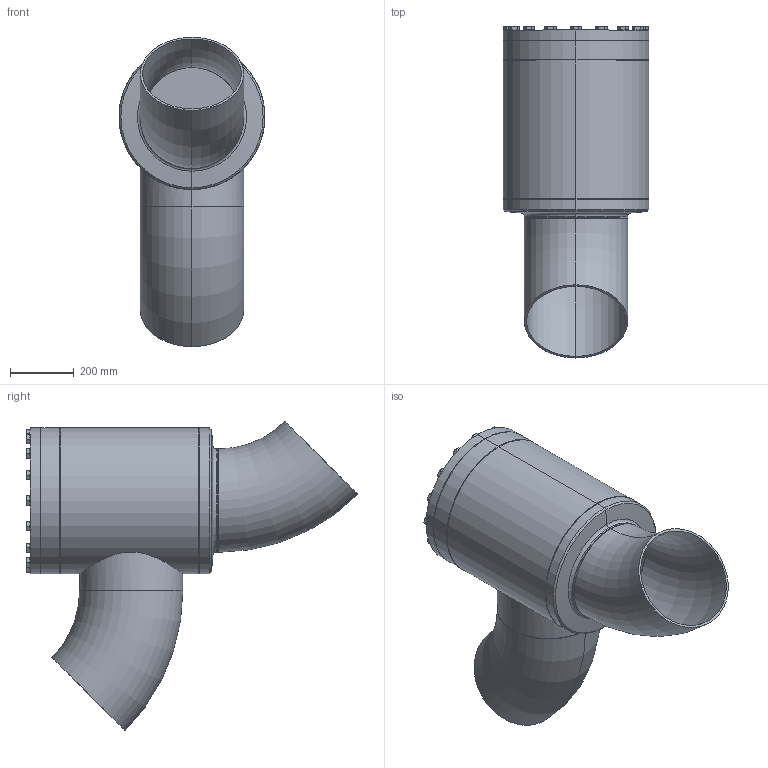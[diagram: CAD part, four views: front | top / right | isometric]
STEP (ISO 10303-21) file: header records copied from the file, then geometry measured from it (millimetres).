
FILE_DESCRIPTION (( 'STEP AP214' ), '1' );
FILE_NAME ('SS52300C25-DN300_R1_PS25.STEP', '2006-05-02T05:42:14', ( 'Herr Grams' ), ( 'AWP GmbH' ), 'SwSTEP 2.0', 'SolidWorks 2002296', '' );
FILE_SCHEMA (( 'AUTOMOTIVE_DESIGN' ));
Length unit declared in the file: millimetre
Products named in the file (14): SS52300C25-DN300_R1_PS25; SS52300B25_Deck+Schr-DN300_Standard; Deckel52300B25-DN300_Standard; Sechskantschraube-DIN933_M20x 60; Gehäuse-kpl26300-DN300_R1_Standard; Kopfstück26300-DN300_Standard; Gehäuse26300-DN300_Standard; Boden26300-DN300_Standard; Rohrstutzen-A26300-DN300_R1_Standard; Rohrbogen 45°_Rohrbogen-DN300-45°; bead-DN300-2_Standard; bead-DN300-1_Standard; bead-DN300-3_Standard; bead-DN300-4_Standard
Assembly tree (31 placements, depth 3):
  SS52300C25-DN300_R1_PS25
    SS52300B25_Deck+Schr-DN300_Standard
      Deckel52300B25-DN300_Standard
      Sechskantschraube-DIN933_M20x 60  x16
    Gehäuse-kpl26300-DN300_R1_Standard
      Rohrstutzen-A26300-DN300_R1_Standard
      Boden26300-DN300_Standard
      bead-DN300-1_Standard  x2
      bead-DN300-4_Standard  x2
      Rohrbogen 45°_Rohrbogen-DN300-45°  x2
      bead-DN300-2_Standard
      Kopfstück26300-DN300_Standard
      Gehäuse26300-DN300_Standard
      bead-DN300-3_Standard
Bounding box: 457.47 x 1040.16 x 969.03 mm (x, y, z)
Volume: 30473725.1 mm3; surface area: 4408922.6 mm2
Topology: 29 solids, 29 shells, 529 faces, 1128 edges, 674 vertices
Faces by surface type: cone 230, plane 172, cylinder 93, bspline 24, torus 10
Entity records: 7458 total; most frequent: CARTESIAN_POINT 3496, DIRECTION 690, ORIENTED_EDGE 624, EDGE_CURVE 312, AXIS2_PLACEMENT_3D 306, VERTEX_POINT 200, EDGE_LOOP 190, CIRCLE 150
